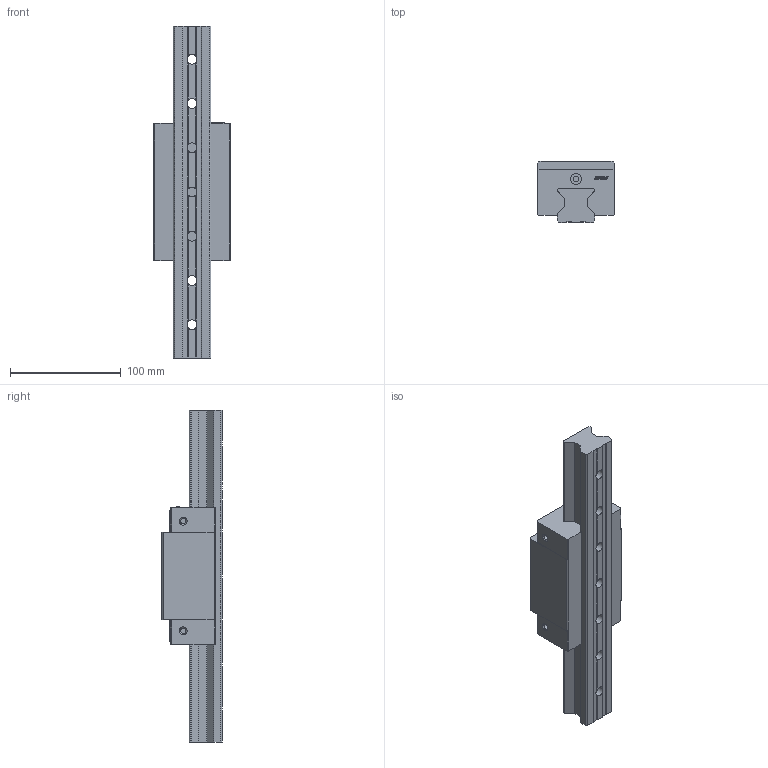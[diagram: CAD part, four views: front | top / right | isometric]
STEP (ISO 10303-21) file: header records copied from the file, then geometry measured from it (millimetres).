
FILE_DESCRIPTION(/* description */ (''),/* implementation_level */ '2;1');
FILE_NAME(/* name */ 'SRH35CA.stp',/* time_stamp */ '2022-01-22T15:15:58+08:00',/* author */ (''),/* organization */ (''),/* preprocessor_version */ 'ST-DEVELOPER v15',/* originating_system */ 'SIEMENS PLM Software NX 8.5',/* authorisation */ '');
FILE_SCHEMA (('CONFIG_CONTROL_DESIGN'));
Length unit declared in the file: millimetre
Products named in the file (1): _model1
Bounding box: 70 x 55 x 300 mm (x, y, z)
Volume: 542609.2 mm3; surface area: 92087.4 mm2
Topology: 2 solids, 2 shells, 274 faces, 767 edges, 516 vertices
Faces by surface type: plane 150, extrusion 86, cylinder 28, cone 10
Full cylindrical faces by diameter (mm): 5 x6, 6.75 x6, 9 x7, 10.3 x2, 14 x7
Entity records: 9341 total; most frequent: CARTESIAN_POINT 2584, ORIENTED_EDGE 1436, DIRECTION 1145, EDGE_CURVE 718, VERTEX_POINT 505, VECTOR 497, LINE 411, EDGE_LOOP 345
